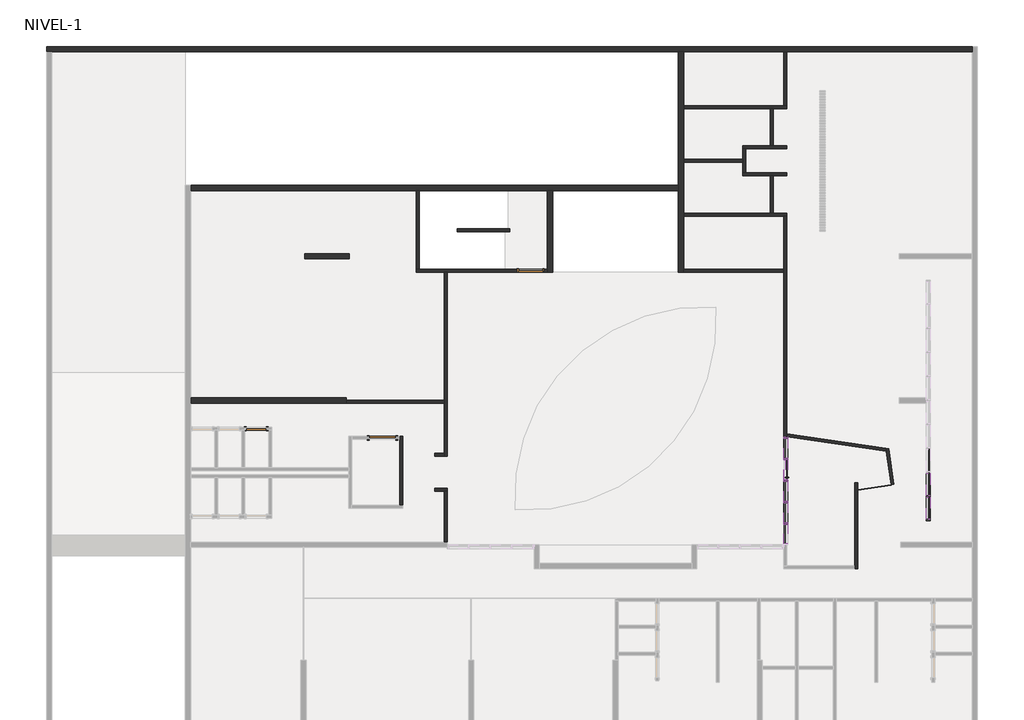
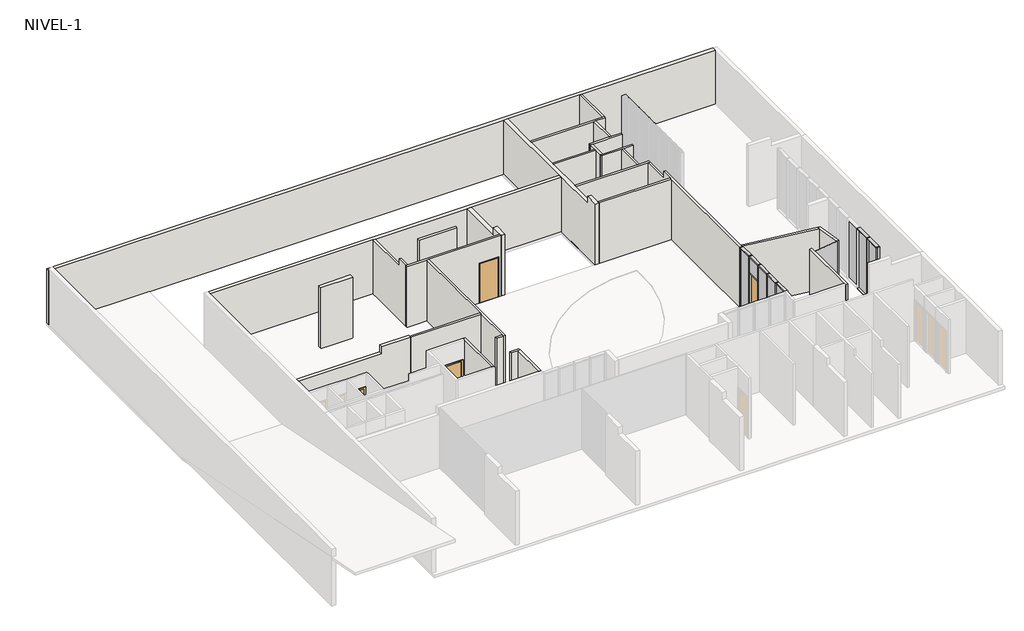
# One storey, part 3 of 4: 29 walls, 27 members, 9 plates, 4 doors.
"""IFC4 building model written with IfcOpenShell, lengths in millimetres."""

from ifc_helpers import new_model, si_unit, frame, origin, place, context, project, spatial, polyline, outline, extrude, faceted_brep, transform, mapped, element, save
from components import door_90f4172a, m_door_curtain_wall_single_glass_m_door_curtain_wall_single_9e41ad53, m_single_flush_1000x_225_34d59a64, m_single_flush_750x_225_ddc8b89c, rectangular_mullion_50_x_150mm_ddcdbc05, rectangular_mullion_50_x_150mm_77bbb7d4, rectangular_mullion_50_x_150mm_a8c66e35, rectangular_mullion_50_x_150mm_7327b6b9, rectangular_mullion_50_x_150mm_a303c6b4, rectangular_mullion_50_x_150mm_548d5156, rectangular_mullion_50_x_150mm_c6357429, rectangular_mullion_50_x_150mm_8dc60d6a, rectangular_mullion_50_x_150mm_86a57cfb, rectangular_mullion_50_x_150mm_24ac0887, rectangular_mullion_50_x_150mm_324a6438, system_panel_cr_shower_02e1cb46, system_panel_glazed_d7af4334, system_panel_glazed_4ab61fab, system_panel_glazed_52054b90, system_panel_glazed_17ea2be8, system_panel_glazed_1ee91bb5

model = new_model("IFC4")

# Units and contexts
model_context = context("Model", 3, world=origin())
ifc_project = project(units=[si_unit("LENGTHUNIT", "METRE", prefix="MILLI")], contexts=[model_context])

# Site, building, storey
site = spatial("IfcSite", under=ifc_project)
building = spatial("IfcBuilding", under=site)
storey = spatial("IfcBuildingStorey", under=building, Name="NIVEL-1", Elevation=-4500.0)

# Doors
placement = place(None, origin())
door_shape = door_90f4172a(model_context)
element("IfcDoor", 1, ObjectType="PUERTA SEGURIDAD SIMPLE : P600_A(90*220) RF120", at=placement, inside=storey, context=model_context, shape_type="MappedRepresentation", body=[
    mapped(door_shape, transform((-10358.5934748, 9988.9139241, -4500.0), x_axis=(-1.0, 0.0, 0.0), y_axis=(0.0, -1.0, 0.0), z_axis=(0.0, 0.0, 1.0))),
])
m_door_curtain_wall_single_glass_m_door_curtain_wall_single_shape = m_door_curtain_wall_single_glass_m_door_curtain_wall_single_9e41ad53(model_context)
element("IfcDoor", 2, ObjectType="M_Door-Curtain-Wall-Single-Glass : M_Door-Curtain-Wall-Single-Glass", at=placement, inside=storey, context=model_context, shape_type="MappedRepresentation", body=[
    mapped(m_door_curtain_wall_single_glass_m_door_curtain_wall_single_shape, transform((-808.5934748, 2541.4139241, -4520.0), x_axis=(0.0, 1.0, 0.0), y_axis=(-1.0, 0.0, 0.0), z_axis=(0.0, 0.0, 1.0))),
])
m_single_flush_1000x_225_shape = m_single_flush_1000x_225_34d59a64(model_context)
element("IfcDoor", 3, ObjectType="M_Single-Flush : 1000x 225", at=placement, inside=storey, context=model_context, shape_type="MappedRepresentation", body=[
    mapped(m_single_flush_1000x_225_shape, transform((-15903.5934748, 3733.9139241, -4500.0), x_axis=(-1.0, 0.0, 0.0), y_axis=(0.0, -1.0, 0.0), z_axis=(0.0, 0.0, 1.0))),
])
m_single_flush_750x_225_shape = m_single_flush_750x_225_ddc8b89c(model_context)
element("IfcDoor", 4, ObjectType="M_Single-Flush : 750x 225", at=placement, inside=storey, context=model_context, shape_type="MappedRepresentation", body=[
    mapped(m_single_flush_750x_225_shape, transform((-20639.3934748, 4078.9139241, -4500.0), x_axis=(-1.0, 0.0, 0.0), y_axis=(0.0, -1.0, 0.0), z_axis=(0.0, 0.0, 1.0))),
])

# Members
rectangular_mullion_50_x_150mm_shape = rectangular_mullion_50_x_150mm_ddcdbc05(model_context)
element("IfcMember", 5, ObjectType="Rectangular Mullion : 50 x 150mm", at=placement, inside=storey, context=model_context, shape_type="MappedRepresentation", body=[
    mapped(rectangular_mullion_50_x_150mm_shape, transform((-808.5934748, 503.9139241, -1170.0), x_axis=(0.0, 0.0, 1.0), y_axis=(1.0, 0.0, 0.0), z_axis=(0.0, 1.0, 0.0))),
])
rectangular_mullion_50_x_150mm_2_shape = rectangular_mullion_50_x_150mm_77bbb7d4(model_context)
element("IfcMember", 6, ObjectType="Rectangular Mullion : 50 x 150mm", at=placement, inside=storey, context=model_context, shape_type="MappedRepresentation", body=[
    mapped(rectangular_mullion_50_x_150mm_2_shape, transform((-808.5934748, 1308.9139241, -1170.0), x_axis=(0.0, 0.0, 1.0), y_axis=(1.0, 0.0, 0.0), z_axis=(0.0, 1.0, 0.0))),
])
element("IfcMember", 7, ObjectType="Rectangular Mullion : 50 x 150mm", at=placement, inside=storey, context=model_context, shape_type="MappedRepresentation", body=[
    mapped(rectangular_mullion_50_x_150mm_2_shape, transform((-808.5934748, 2113.9139241, -1170.0), x_axis=(0.0, 0.0, 1.0), y_axis=(1.0, 0.0, 0.0), z_axis=(0.0, 1.0, 0.0))),
])
element("IfcMember", 8, ObjectType="Rectangular Mullion : 50 x 150mm", at=placement, inside=storey, context=model_context, shape_type="MappedRepresentation", body=[
    mapped(rectangular_mullion_50_x_150mm_2_shape, transform((-808.5934748, 2918.9139241, -1170.0), x_axis=(0.0, 0.0, 1.0), y_axis=(1.0, 0.0, 0.0), z_axis=(0.0, 1.0, 0.0))),
])
element("IfcMember", 9, ObjectType="Rectangular Mullion : 50 x 150mm", at=placement, inside=storey, context=model_context, shape_type="MappedRepresentation", body=[
    mapped(rectangular_mullion_50_x_150mm_2_shape, transform((-808.5934748, 3723.9139241, -1170.0), x_axis=(0.0, 0.0, 1.0), y_axis=(1.0, 0.0, 0.0), z_axis=(0.0, 1.0, 0.0))),
])
element("IfcMember", 10, ObjectType="Rectangular Mullion : 50 x 150mm", at=placement, inside=storey, context=model_context, shape_type="MappedRepresentation", body=[
    mapped(rectangular_mullion_50_x_150mm_2_shape, transform((-808.5934748, 553.9139241, -4520.0), x_axis=(0.0, 0.0, -1.0), y_axis=(1.0, 0.0, 0.0), z_axis=(0.0, -1.0, 0.0))),
])
element("IfcMember", 11, ObjectType="Rectangular Mullion : 50 x 150mm", at=placement, inside=storey, context=model_context, shape_type="MappedRepresentation", body=[
    mapped(rectangular_mullion_50_x_150mm_2_shape, transform((-808.5934748, 1358.9139241, -4520.0), x_axis=(0.0, 0.0, -1.0), y_axis=(1.0, 0.0, 0.0), z_axis=(0.0, -1.0, 0.0))),
])
element("IfcMember", 12, ObjectType="Rectangular Mullion : 50 x 150mm", at=placement, inside=storey, context=model_context, shape_type="MappedRepresentation", body=[
    mapped(rectangular_mullion_50_x_150mm_2_shape, transform((-808.5934748, 2968.9139241, -4520.0), x_axis=(0.0, 0.0, -1.0), y_axis=(1.0, 0.0, 0.0), z_axis=(0.0, -1.0, 0.0))),
])
rectangular_mullion_50_x_150mm_3_shape = rectangular_mullion_50_x_150mm_a8c66e35(model_context)
element("IfcMember", 13, ObjectType="Rectangular Mullion : 50 x 150mm", at=placement, inside=storey, context=model_context, shape_type="MappedRepresentation", body=[
    mapped(rectangular_mullion_50_x_150mm_3_shape, transform((-808.5934748, 2918.9139241, -2075.0), x_axis=(0.0, 0.0, 1.0), y_axis=(1.0, 0.0, 0.0), z_axis=(0.0, 1.0, 0.0))),
])
rectangular_mullion_50_x_150mm_4_shape = rectangular_mullion_50_x_150mm_7327b6b9(model_context)
element("IfcMember", 14, ObjectType="Rectangular Mullion : 50 x 150mm", at=placement, inside=storey, context=model_context, shape_type="MappedRepresentation", body=[
    mapped(rectangular_mullion_50_x_150mm_4_shape, transform((-808.5934748, 528.9139241, -4520.0), x_axis=(0.0, 1.0, 0.0), y_axis=(1.0, 0.0, 0.0), z_axis=(0.0, 0.0, -1.0))),
])
element("IfcMember", 15, ObjectType="Rectangular Mullion : 50 x 150mm", at=placement, inside=storey, context=model_context, shape_type="MappedRepresentation", body=[
    mapped(rectangular_mullion_50_x_150mm_4_shape, transform((-808.5934748, 1333.9139241, -4520.0), x_axis=(0.0, 1.0, 0.0), y_axis=(1.0, 0.0, 0.0), z_axis=(0.0, 0.0, -1.0))),
])
element("IfcMember", 16, ObjectType="Rectangular Mullion : 50 x 150mm", at=placement, inside=storey, context=model_context, shape_type="MappedRepresentation", body=[
    mapped(rectangular_mullion_50_x_150mm_4_shape, transform((-808.5934748, 3748.9139241, -4520.0), x_axis=(0.0, 1.0, 0.0), y_axis=(1.0, 0.0, 0.0), z_axis=(0.0, 0.0, -1.0))),
])
element("IfcMember", 17, ObjectType="Rectangular Mullion : 50 x 150mm", at=placement, inside=storey, context=model_context, shape_type="MappedRepresentation", body=[
    mapped(rectangular_mullion_50_x_150mm_4_shape, transform((-808.5934748, 2138.9139241, -4520.0), x_axis=(0.0, 1.0, 0.0), y_axis=(1.0, 0.0, 0.0), z_axis=(0.0, 0.0, -1.0))),
])
element("IfcMember", 18, ObjectType="Rectangular Mullion : 50 x 150mm", at=placement, inside=storey, context=model_context, shape_type="MappedRepresentation", body=[
    mapped(rectangular_mullion_50_x_150mm_4_shape, transform((-808.5934748, 2943.9139241, -4520.0), x_axis=(0.0, 1.0, 0.0), y_axis=(1.0, 0.0, 0.0), z_axis=(0.0, 0.0, -1.0))),
])
rectangular_mullion_50_x_150mm_5_shape = rectangular_mullion_50_x_150mm_a303c6b4(model_context)
element("IfcMember", 19, ObjectType="Rectangular Mullion : 50 x 150mm", at=placement, inside=storey, context=model_context, shape_type="MappedRepresentation", body=[
    mapped(rectangular_mullion_50_x_150mm_5_shape, transform((-808.5934748, 528.9139241, -2075.0), x_axis=(0.0, 1.0, 0.0), y_axis=(1.0, 0.0, 0.0), z_axis=(0.0, 0.0, -1.0))),
])
element("IfcMember", 20, ObjectType="Rectangular Mullion : 50 x 150mm", at=placement, inside=storey, context=model_context, shape_type="MappedRepresentation", body=[
    mapped(rectangular_mullion_50_x_150mm_5_shape, transform((-808.5934748, 1333.9139241, -2075.0), x_axis=(0.0, 1.0, 0.0), y_axis=(1.0, 0.0, 0.0), z_axis=(0.0, 0.0, -1.0))),
])
element("IfcMember", 21, ObjectType="Rectangular Mullion : 50 x 150mm", at=placement, inside=storey, context=model_context, shape_type="MappedRepresentation", body=[
    mapped(rectangular_mullion_50_x_150mm_5_shape, transform((-808.5934748, 3748.9139241, -2075.0), x_axis=(0.0, 1.0, 0.0), y_axis=(1.0, 0.0, 0.0), z_axis=(0.0, 0.0, -1.0))),
])
element("IfcMember", 22, ObjectType="Rectangular Mullion : 50 x 150mm", at=placement, inside=storey, context=model_context, shape_type="MappedRepresentation", body=[
    mapped(rectangular_mullion_50_x_150mm_5_shape, transform((-808.5934748, 2138.9139241, -2075.0), x_axis=(0.0, 1.0, 0.0), y_axis=(1.0, 0.0, 0.0), z_axis=(0.0, 0.0, -1.0))),
])
element("IfcMember", 23, ObjectType="Rectangular Mullion : 50 x 150mm", at=placement, inside=storey, context=model_context, shape_type="MappedRepresentation", body=[
    mapped(rectangular_mullion_50_x_150mm_5_shape, transform((-808.5934748, 2943.9139241, -2075.0), x_axis=(0.0, 1.0, 0.0), y_axis=(1.0, 0.0, 0.0), z_axis=(0.0, 0.0, -1.0))),
])
rectangular_mullion_50_x_150mm_6_shape = rectangular_mullion_50_x_150mm_548d5156(model_context)
element("IfcMember", 24, ObjectType="Rectangular Mullion : 50 x 150mm", at=placement, inside=storey, context=model_context, shape_type="MappedRepresentation", body=[
    mapped(rectangular_mullion_50_x_150mm_6_shape, transform((-808.5934748, 3773.9139237, -4520.0), x_axis=(0.0, 1.0, 0.0), y_axis=(1.0, 0.0, 0.0), z_axis=(0.0, 0.0, -1.0))),
])
rectangular_mullion_50_x_150mm_7_shape = rectangular_mullion_50_x_150mm_c6357429(model_context)
element("IfcMember", 25, ObjectType="Rectangular Mullion : 50 x 150mm", at=placement, inside=storey, context=model_context, shape_type="MappedRepresentation", body=[
    mapped(rectangular_mullion_50_x_150mm_7_shape, transform((-808.5934748, 3773.9139237, -2075.0), x_axis=(0.0, 1.0, 0.0), y_axis=(1.0, 0.0, 0.0), z_axis=(0.0, 0.0, -1.0))),
])
rectangular_mullion_50_x_150mm_8_shape = rectangular_mullion_50_x_150mm_8dc60d6a(model_context)
element("IfcMember", 26, ObjectType="Rectangular Mullion : 50 x 150mm", at=placement, inside=storey, context=model_context, shape_type="MappedRepresentation", body=[
    mapped(rectangular_mullion_50_x_150mm_8_shape, transform((4516.4065252, 1508.9139241, -1170.0), x_axis=(0.0, 0.0, 1.0), y_axis=(1.0, 0.0, 0.0), z_axis=(0.0, 1.0, 0.0))),
])
element("IfcMember", 27, ObjectType="Rectangular Mullion : 50 x 150mm", at=placement, inside=storey, context=model_context, shape_type="MappedRepresentation", body=[
    mapped(rectangular_mullion_50_x_150mm_8_shape, transform((4516.4065252, 683.9139237, -4520.0), x_axis=(0.0, 0.0, -1.0), y_axis=(1.0, 0.0, 0.0), z_axis=(0.0, -1.0, 0.0))),
])
rectangular_mullion_50_x_150mm_9_shape = rectangular_mullion_50_x_150mm_86a57cfb(model_context)
element("IfcMember", 28, ObjectType="Rectangular Mullion : 50 x 150mm", at=placement, inside=storey, context=model_context, shape_type="MappedRepresentation", body=[
    mapped(rectangular_mullion_50_x_150mm_9_shape, transform((4516.4065252, 1533.9139241, -4520.0), x_axis=(0.0, 1.0, 0.0), y_axis=(1.0, 0.0, 0.0), z_axis=(0.0, 0.0, -1.0))),
])
rectangular_mullion_50_x_150mm_10_shape = rectangular_mullion_50_x_150mm_24ac0887(model_context)
element("IfcMember", 29, ObjectType="Rectangular Mullion : 50 x 150mm", at=placement, inside=storey, context=model_context, shape_type="MappedRepresentation", body=[
    mapped(rectangular_mullion_50_x_150mm_10_shape, transform((4516.4065252, 633.9139237, -1170.0), x_axis=(0.0, -1.0, 0.0), y_axis=(1.0, 0.0, 0.0), z_axis=(0.0, 0.0, 1.0))),
])
rectangular_mullion_50_x_150mm_11_shape = rectangular_mullion_50_x_150mm_324a6438(model_context)
element("IfcMember", 30, ObjectType="Rectangular Mullion : 50 x 150mm", at=placement, inside=storey, context=model_context, shape_type="MappedRepresentation", body=[
    mapped(rectangular_mullion_50_x_150mm_11_shape, transform((4516.4065252, 2408.9139241, -1170.0), x_axis=(0.0, 0.0, 1.0), y_axis=(1.0, 0.0, 0.0), z_axis=(0.0, 1.0, 0.0))),
])
element("IfcMember", 31, ObjectType="Rectangular Mullion : 50 x 150mm", at=placement, inside=storey, context=model_context, shape_type="MappedRepresentation", body=[
    mapped(rectangular_mullion_50_x_150mm_11_shape, transform((4516.4065252, 1558.9139241, -4520.0), x_axis=(0.0, 0.0, -1.0), y_axis=(1.0, 0.0, 0.0), z_axis=(0.0, -1.0, 0.0))),
])

# Plates
system_panel_cr_shower_shape = system_panel_cr_shower_02e1cb46(model_context)
element("IfcPlate", 32, ObjectType="System Panel : CR-SHOWER", at=placement, inside=storey, context=model_context, shape_type="MappedRepresentation", body=[
    mapped(system_panel_cr_shower_shape, transform((2506.2996153, 1885.3092559, -4520.0), x_axis=(-0.9893090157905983, -0.14583439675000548, 0.0), y_axis=(0.14583439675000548, -0.9893090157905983, 0.0), z_axis=(0.0, 0.0, 1.0))),
])
system_panel_glazed_shape = system_panel_glazed_d7af4334(model_context)
element("IfcPlate", 33, ObjectType="System Panel : Glazed", at=placement, inside=storey, context=model_context, shape_type="MappedRepresentation", body=[
    mapped(system_panel_glazed_shape, transform((-808.5934748, 138.9139239, -4470.0), x_axis=(0.0, 1.0, 0.0), y_axis=(-1.0, 0.0, 0.0), z_axis=(0.0, 0.0, 1.0))),
])
system_panel_glazed_2_shape = system_panel_glazed_4ab61fab(model_context)
element("IfcPlate", 34, ObjectType="System Panel : Glazed", at=placement, inside=storey, context=model_context, shape_type="MappedRepresentation", body=[
    mapped(system_panel_glazed_2_shape, transform((-808.5934748, 931.4139241, -4470.0), x_axis=(0.0, 1.0, 0.0), y_axis=(-1.0, 0.0, 0.0), z_axis=(0.0, 0.0, 1.0))),
])
element("IfcPlate", 35, ObjectType="System Panel : Glazed", at=placement, inside=storey, context=model_context, shape_type="MappedRepresentation", body=[
    mapped(system_panel_glazed_2_shape, transform((-808.5934748, 1736.4139241, -4470.0), x_axis=(0.0, 1.0, 0.0), y_axis=(-1.0, 0.0, 0.0), z_axis=(0.0, 0.0, 1.0))),
])
element("IfcPlate", 36, ObjectType="System Panel : Glazed", at=placement, inside=storey, context=model_context, shape_type="MappedRepresentation", body=[
    mapped(system_panel_glazed_2_shape, transform((-808.5934748, 3346.4139241, -4470.0), x_axis=(0.0, 1.0, 0.0), y_axis=(-1.0, 0.0, 0.0), z_axis=(0.0, 0.0, 1.0))),
])
system_panel_glazed_3_shape = system_panel_glazed_52054b90(model_context)
element("IfcPlate", 37, ObjectType="System Panel : Glazed", at=placement, inside=storey, context=model_context, shape_type="MappedRepresentation", body=[
    mapped(system_panel_glazed_3_shape, transform((-808.5934748, 2541.4139241, -2050.0), x_axis=(0.0, 1.0, 0.0), y_axis=(-1.0, 0.0, 0.0), z_axis=(0.0, 0.0, 1.0))),
])
system_panel_glazed_4_shape = system_panel_glazed_17ea2be8(model_context)
element("IfcPlate", 38, ObjectType="System Panel : Glazed", at=placement, inside=storey, context=model_context, shape_type="MappedRepresentation", body=[
    mapped(system_panel_glazed_4_shape, transform((4516.4065252, 1096.4139239, -4470.0), x_axis=(0.0, 1.0, 0.0), y_axis=(-1.0, 0.0, 0.0), z_axis=(0.0, 0.0, 1.0))),
])
system_panel_glazed_5_shape = system_panel_glazed_1ee91bb5(model_context)
element("IfcPlate", 39, ObjectType="System Panel : Glazed", at=placement, inside=storey, context=model_context, shape_type="MappedRepresentation", body=[
    mapped(system_panel_glazed_5_shape, transform((4516.4065252, 1983.9139241, -4470.0), x_axis=(0.0, 1.0, 0.0), y_axis=(-1.0, 0.0, 0.0), z_axis=(0.0, 0.0, 1.0))),
])
element("IfcPlate", 40, ObjectType="System Panel : Glazed", at=placement, inside=storey, context=model_context, shape_type="MappedRepresentation", body=[
    mapped(system_panel_glazed_5_shape, transform((4516.4065252, 2883.9139241, -4470.0), x_axis=(0.0, 1.0, 0.0), y_axis=(-1.0, 0.0, 0.0), z_axis=(0.0, 0.0, 1.0))),
])

# Walls
element("IfcWall", 41, ObjectType="SCV.TI.A.110.120.141.44.1", at=placement, inside=storey, context=model_context, shape_type="Brep", body=[
    faceted_brep([(-14634.3934748, 9933.9139241, -4520.0), (-13593.5934748, 9933.9139241, -4520.0), (-13483.5934748, 9933.9139241, -4520.0), (-9733.5934748, 9933.9139241, -4520.0), (-9733.5934748, 9933.9139241, -1170.0), (-13483.5934748, 9933.9139241, -1170.0), (-13593.5934748, 9933.9139241, -1170.0), (-14634.3934748, 9933.9139241, -1170.0), (-10873.5934748, 9933.9139241, -4500.0), (-10873.5934748, 9933.9139241, -2300.0), (-9843.5934748, 9933.9139241, -2300.0), (-9843.5934748, 9933.9139241, -4500.0), (-14634.3934748, 10043.9139241, -4520.0), (-14634.3934748, 10043.9139241, -1170.0), (-14524.3934748, 10043.9139241, -1170.0), (-9733.5934748, 10043.9139241, -1170.0), (-9733.5934748, 10043.9139241, -4520.0), (-14524.3934748, 10043.9139241, -4520.0), (-10873.5934748, 10043.9139241, -4500.0), (-9843.5934748, 10043.9139241, -4500.0), (-9843.5934748, 10043.9139241, -2300.0), (-10873.5934748, 10043.9139241, -2300.0)], [[[0, 1, 2, 3, 4, 5, 6, 7], [8, 9, 10, 11]], [[12, 13, 14, 15, 16, 17], [18, 19, 20, 21]], [[3, 2, 1, 0, 12, 17, 16]], [[7, 6, 5, 4, 15, 14, 13]], [[4, 3, 16, 15]], [[0, 7, 13, 12]], [[9, 8, 18, 21]], [[10, 9, 21, 20]], [[11, 10, 20, 19]], [[8, 11, 19, 18]]]),
])
element("IfcWall", 42, ObjectType="SCV.TI.A.110.090.143.47.1", at=placement, inside=storey, context=model_context, shape_type="Brep", body=[
    faceted_brep([(1881.4065252, -1166.0860759, -4520.0), (1881.4065252, 1737.599183, -4520.0), (1881.4065252, 1848.7878998, -4520.0), (1881.4065252, 2058.9139241, -4520.0), (1881.4065252, 2058.9139241, -1170.0), (1881.4065252, 1848.7878998, -1170.0), (1881.4065252, 1737.599183, -1170.0), (1881.4065252, -1166.0860759, -1170.0), (1771.4065252, -1166.0860759, -4520.0), (1771.4065252, -1166.0860759, -1170.0), (1771.4065252, -1056.0860759, -1170.0), (1771.4065252, 2058.9139241, -1170.0), (1771.4065252, 2058.9139241, -4520.0), (1771.4065252, -1056.0860759, -4520.0)], [[[0, 1, 2, 3, 4, 5, 6, 7]], [[8, 9, 10, 11, 12, 13]], [[3, 2, 1, 0, 8, 13, 12]], [[4, 3, 12, 11]], [[7, 6, 5, 4, 11, 10, 9]], [[0, 7, 9, 8]]]),
])
element("IfcWall", 43, ObjectType="SCV.TI.A.110.090.143.47.1", at=placement, inside=storey, context=model_context, shape_type="Brep", body=[
    faceted_brep([(3240.0166972, 1993.466754, -4520.0), (3042.5398287, 3333.1071325, -4520.0), (3042.5398287, 3333.1071325, -1170.0), (3240.0166972, 1993.466754, -1170.0), (3131.1927055, 1977.4249704, -4520.0), (3131.1927055, 1977.4249704, -1170.0), (2945.650837, 3236.1008891, -1170.0), (2928.9024898, 3349.718055, -1170.0), (2928.9024898, 3349.718055, -4520.0), (2945.650837, 3236.1008891, -4520.0)], [[[0, 1, 2, 3]], [[4, 5, 6, 7, 8, 9]], [[1, 0, 4, 9, 8]], [[3, 2, 7, 6, 5]], [[0, 3, 5, 4]], [[2, 1, 8, 7]]]),
])
element("IfcWall", 44, ObjectType="SCV.TI.A.110.090.143.47.1", at=placement, inside=storey, context=model_context, shape_type="SweptSolid", body=[
    extrude(outline(polyline([(2945.650837, 3236.1008891), (-773.5934748, 3779.7609183), (-773.5934748, 3890.9298969), (2928.9024898, 3349.718055), (2945.650837, 3236.1008891)])), frame((0.0, 0.0, -4520.0), z_axis=(0.0, 0.0, 1.0), x_axis=(1.0, 0.0, 0.0)), (0.0, 0.0, 1.0), 3350.0),
])
element("IfcWall", 45, ObjectType="SCV.TI.A.110.090.143.47.1", at=placement, inside=storey, context=model_context, shape_type="Brep", body=[
    faceted_brep([(-883.5934748, 12031.8139241, -4520.0), (-883.5934748, 10043.9139241, -4520.0), (-883.5934748, 9933.9139241, -4520.0), (-883.5934748, 3773.9139237, -4520.0), (-883.5934748, 3773.9139237, -1170.0), (-883.5934748, 9933.9139241, -1170.0), (-883.5934748, 10043.9139241, -1170.0), (-883.5934748, 10633.9139241, -1170.0), (-883.5934748, 10633.9139241, -1550.0), (-883.5934748, 12031.8139241, -1550.0), (-773.5934748, 12031.8139241, -4520.0), (-773.5934748, 12031.8139241, -1550.0), (-773.5934748, 10633.9139241, -1550.0), (-773.5934748, 10633.9139241, -1170.0), (-773.5934748, 3890.9298969, -1170.0), (-773.5934748, 3779.7609183, -1170.0), (-773.5934748, 3773.9139237, -1170.0), (-773.5934748, 3773.9139237, -4520.0), (-773.5934748, 3779.7609183, -4520.0), (-773.5934748, 3890.9298969, -4520.0)], [[[0, 1, 2, 3, 4, 5, 6, 7, 8, 9]], [[10, 11, 12, 13, 14, 15, 16, 17, 18, 19]], [[3, 2, 1, 0, 10, 19, 18, 17]], [[4, 3, 17, 16]], [[0, 9, 11, 10]], [[7, 6, 5, 4, 16, 15, 14, 13]], [[7, 13, 12, 8]], [[9, 8, 12, 11]]]),
])
element("IfcWall", 46, ObjectType="SCV.TI.A.110.090.143.47.1", at=placement, inside=storey, context=model_context, shape_type="SweptSolid", body=[
    extrude(outline(polyline([(-883.5934748, 9933.9139241), (-4633.5934748, 9933.9139241), (-4633.5934748, 10043.9139241), (-883.5934748, 10043.9139241), (-883.5934748, 9933.9139241)])), frame((0.0, 0.0, -4520.0), z_axis=(0.0, 0.0, 1.0), x_axis=(1.0, 0.0, 0.0)), (0.0, 0.0, 1.0), 3350.0),
])
element("IfcWall", 47, ObjectType="SCV.TI.A.110.090.143.47.1", at=placement, inside=storey, context=model_context, shape_type="Brep", body=[
    faceted_brep([(-773.5934748, 12141.8139241, -4520.0), (-1273.5934748, 12141.8139241, -4520.0), (-1383.5934748, 12141.8139241, -4520.0), (-4633.5934748, 12141.8139241, -4520.0), (-4633.5934748, 12141.8139241, -1550.0), (-1383.5934748, 12141.8139241, -1550.0), (-1273.5934748, 12141.8139241, -1550.0), (-773.5934748, 12141.8139241, -1550.0), (-773.5934748, 12031.8139241, -4520.0), (-773.5934748, 12031.8139241, -1550.0), (-883.5934748, 12031.8139241, -1550.0), (-4633.5934748, 12031.8139241, -1550.0), (-4633.5934748, 12031.8139241, -4520.0), (-883.5934748, 12031.8139241, -4520.0)], [[[0, 1, 2, 3, 4, 5, 6, 7]], [[8, 9, 10, 11, 12, 13]], [[3, 2, 1, 0, 8, 13, 12]], [[4, 3, 12, 11]], [[0, 7, 9, 8]], [[7, 6, 5, 4, 11, 10, 9]]]),
])
element("IfcWall", 48, ObjectType="SCV.TI.A.110.090.143.47.1", at=placement, inside=storey, context=model_context, shape_type="Brep", body=[
    faceted_brep([(-773.5934748, 13651.8139241, -4520.0), (-2308.5934748, 13651.8139241, -4520.0), (-2418.5934748, 13651.8139241, -4520.0), (-2418.5934748, 13651.8139241, -1550.0), (-2308.5934748, 13651.8139241, -1550.0), (-773.5934748, 13651.8139241, -1550.0), (-773.5934748, 13541.8139241, -4520.0), (-773.5934748, 13541.8139241, -1550.0), (-1273.5934748, 13541.8139241, -1550.0), (-1383.5934748, 13541.8139241, -1550.0), (-2418.5934748, 13541.8139241, -1550.0), (-2418.5934748, 13541.8139241, -4520.0), (-1383.5934748, 13541.8139241, -4520.0), (-1273.5934748, 13541.8139241, -4520.0)], [[[0, 1, 2, 3, 4, 5]], [[6, 7, 8, 9, 10, 11, 12, 13]], [[2, 1, 0, 6, 13, 12, 11]], [[0, 5, 7, 6]], [[3, 2, 11, 10]], [[5, 4, 3, 10, 9, 8, 7]]]),
])
element("IfcWall", 49, ObjectType="SCV.TI.A.110.090.143.47.1", at=placement, inside=storey, context=model_context, shape_type="SweptSolid", body=[
    extrude(outline(polyline([(-1383.5934748, 12141.8139241), (-1383.5934748, 13541.8139241), (-1273.5934748, 13541.8139241), (-1273.5934748, 12141.8139241), (-1383.5934748, 12141.8139241)])), frame((0.0, 0.0, -4520.0), z_axis=(0.0, 0.0, 1.0), x_axis=(1.0, 0.0, 0.0)), (0.0, 0.0, 1.0), 2970.0),
])
element("IfcWall", 50, ObjectType="SCV.TI.A.110.090.143.47.1", at=placement, inside=storey, context=model_context, shape_type="Brep", body=[
    faceted_brep([(-2418.5934748, 14551.8139241, -4520.0), (-2418.5934748, 14169.3639241, -4520.0), (-2418.5934748, 14059.3639241, -4520.0), (-2418.5934748, 13651.8139241, -4520.0), (-2418.5934748, 13651.8139241, -1550.0), (-2418.5934748, 14059.3639241, -1550.0), (-2418.5934748, 14169.3639241, -1550.0), (-2418.5934748, 14551.8139241, -1550.0), (-2308.5934748, 14551.8139241, -4520.0), (-2308.5934748, 14551.8139241, -1550.0), (-2308.5934748, 13651.8139241, -1550.0), (-2308.5934748, 13651.8139241, -4520.0)], [[[0, 1, 2, 3, 4, 5, 6, 7]], [[8, 9, 10, 11]], [[3, 2, 1, 0, 8, 11]], [[0, 7, 9, 8]], [[4, 3, 11, 10]], [[7, 6, 5, 4, 10, 9]]]),
])
element("IfcWall", 51, ObjectType="SCV.TI.A.110.090.143.47.1", at=placement, inside=storey, context=model_context, shape_type="SweptSolid", body=[
    extrude(outline(polyline([(-2418.5934748, 14059.3639241), (-4633.5934748, 14059.3639241), (-4633.5934748, 14169.3639241), (-2418.5934748, 14169.3639241), (-2418.5934748, 14059.3639241)])), frame((0.0, 0.0, -4520.0), z_axis=(0.0, 0.0, 1.0), x_axis=(1.0, 0.0, 0.0)), (0.0, 0.0, 1.0), 2970.0),
])
element("IfcWall", 52, ObjectType="SCV.TI.A.110.090.143.47.1", at=placement, inside=storey, context=model_context, shape_type="Brep", body=[
    faceted_brep([(-773.5934748, 14661.8139241, -4520.0), (-1273.5934748, 14661.8139241, -4520.0), (-1383.5934748, 14661.8139241, -4520.0), (-2418.5934748, 14661.8139241, -4520.0), (-2418.5934748, 14661.8139241, -1550.0), (-1383.5934748, 14661.8139241, -1550.0), (-1273.5934748, 14661.8139241, -1550.0), (-773.5934748, 14661.8139241, -1550.0), (-773.5934748, 14551.8139241, -4520.0), (-773.5934748, 14551.8139241, -1550.0), (-2308.5934748, 14551.8139241, -1550.0), (-2418.5934748, 14551.8139241, -1550.0), (-2418.5934748, 14551.8139241, -4520.0), (-2308.5934748, 14551.8139241, -4520.0)], [[[0, 1, 2, 3, 4, 5, 6, 7]], [[8, 9, 10, 11, 12, 13]], [[3, 2, 1, 0, 8, 13, 12]], [[0, 7, 9, 8]], [[4, 3, 12, 11]], [[7, 6, 5, 4, 11, 10, 9]]]),
])
element("IfcWall", 53, ObjectType="SCV.TI.A.110.090.143.47.1", at=placement, inside=storey, context=model_context, shape_type="Brep", body=[
    faceted_brep([(-773.5934748, 16171.8139241, -4520.0), (-883.5934748, 16171.8139241, -4520.0), (-4633.5934748, 16171.8139241, -4520.0), (-4633.5934748, 16171.8139241, -1550.0), (-883.5934748, 16171.8139241, -1550.0), (-773.5934748, 16171.8139241, -1550.0), (-773.5934748, 16061.8139241, -4520.0), (-773.5934748, 16061.8139241, -1550.0), (-1273.5934748, 16061.8139241, -1550.0), (-1383.5934748, 16061.8139241, -1550.0), (-4633.5934748, 16061.8139241, -1550.0), (-4633.5934748, 16061.8139241, -4520.0), (-1383.5934748, 16061.8139241, -4520.0), (-1273.5934748, 16061.8139241, -4520.0)], [[[0, 1, 2, 3, 4, 5]], [[6, 7, 8, 9, 10, 11, 12, 13]], [[2, 1, 0, 6, 13, 12, 11]], [[3, 2, 11, 10]], [[0, 5, 7, 6]], [[5, 4, 3, 10, 9, 8, 7]]]),
])
element("IfcWall", 54, ObjectType="SCV.TI.A.110.090.143.47.1", at=placement, inside=storey, context=model_context, shape_type="SweptSolid", body=[
    extrude(outline(polyline([(-1273.5934748, 16061.8139241), (-1273.5934748, 14661.8139241), (-1383.5934748, 14661.8139241), (-1383.5934748, 16061.8139241), (-1273.5934748, 16061.8139241)])), frame((0.0, 0.0, -4520.0), z_axis=(0.0, 0.0, 1.0), x_axis=(1.0, 0.0, 0.0)), (0.0, 0.0, 1.0), 2970.0),
])
element("IfcWall", 55, ObjectType="SCV.TI.A.110.090.143.47.1", at=placement, inside=storey, context=model_context, shape_type="SweptSolid", body=[
    extrude(outline(polyline([(-773.5934748, 18184.7139241), (-773.5934748, 16171.8139241), (-883.5934748, 16171.8139241), (-883.5934748, 18184.7139241), (-773.5934748, 18184.7139241)])), frame((0.0, 0.0, -4520.0), z_axis=(0.0, 0.0, 1.0), x_axis=(1.0, 0.0, 0.0)), (0.0, 0.0, 1.0), 2970.0),
])
element("IfcWall", 56, ObjectType="SCV.TI.A.110.090.143.47.1", at=placement, inside=storey, context=model_context, shape_type="SweptSolid", body=[
    extrude(outline(polyline([(-13593.5934748, 5033.9139241), (-17258.5934748, 5033.9139241), (-17258.5934748, 5143.9139241), (-13593.5934748, 5143.9139241), (-13593.5934748, 5033.9139241)])), frame((0.0, 0.0, -4520.0), z_axis=(0.0, 0.0, 1.0), x_axis=(1.0, 0.0, 0.0)), (0.0, 0.0, 1.0), 3350.0),
])
element("IfcWall", 57, ObjectType="SCV.TI.A.110.090.143.47.1", at=placement, inside=storey, context=model_context, shape_type="SweptSolid", body=[
    extrude(outline(polyline([(-13593.5934748, -166.0860759), (-13593.5934748, 1731.4139241), (-13483.5934748, 1731.4139241), (-13483.5934748, -166.0860759), (-13593.5934748, -166.0860759)])), frame((0.0, 0.0, -4520.0), z_axis=(0.0, 0.0, 1.0), x_axis=(1.0, 0.0, 0.0)), (0.0, 0.0, 1.0), 3350.0),
])
element("IfcWall", 58, ObjectType="SCV.TI.A.110.090.143.47.1", at=placement, inside=storey, context=model_context, shape_type="Brep", body=[
    faceted_brep([(-15253.5934748, 3788.9139241, -4520.0), (-15253.5934748, 3678.9139241, -4520.0), (-15253.5934748, 1203.9139241, -4520.0), (-15253.5934748, 1203.9139241, -1170.0), (-15253.5934748, 3678.9139241, -1170.0), (-15253.5934748, 3788.9139241, -1170.0), (-15143.5934748, 3788.9139241, -4520.0), (-15143.5934748, 3788.9139241, -1170.0), (-15143.5934748, 1203.9139241, -1170.0), (-15143.5934748, 1203.9139241, -4520.0)], [[[0, 1, 2, 3, 4, 5]], [[6, 7, 8, 9]], [[2, 1, 0, 6, 9]], [[5, 4, 3, 8, 7]], [[3, 2, 9, 8]], [[0, 5, 7, 6]]]),
])
element("IfcWall", 59, ObjectType="SCV.TI.A.110.120.141.44.1", at=placement, inside=storey, context=model_context, shape_type="SweptSolid", body=[
    extrude(outline(polyline([(10043.9139241, -4520.0), (10043.9139241, -1170.0), (10633.9139241, -1170.0), (10633.9139241, -1550.0), (12984.7139241, -1550.0), (12984.7139241, -4520.0), (10043.9139241, -4520.0)])), frame((-14634.3934748, 0.0, 0.0), z_axis=(1.0, 0.0, 0.0), x_axis=(0.0, 1.0, 0.0)), (0.0, 0.0, 1.0), 110.0),
])
element("IfcWall", 60, ObjectType="SCV.TI.A.110.090.143.47.1", at=placement, inside=storey, context=model_context, shape_type="Brep", body=[
    faceted_brep([(-13483.5934748, 3041.4139241, -4520.0), (-13483.5934748, 9933.9139241, -4520.0), (-13483.5934748, 9933.9139241, -1170.0), (-13483.5934748, 3041.4139241, -1170.0), (-13593.5934748, 3041.4139241, -4520.0), (-13593.5934748, 3041.4139241, -1170.0), (-13593.5934748, 3151.4139241, -1170.0), (-13593.5934748, 5033.9139241, -1170.0), (-13593.5934748, 5143.9139241, -1170.0), (-13593.5934748, 9933.9139241, -1170.0), (-13593.5934748, 9933.9139241, -4520.0), (-13593.5934748, 5143.9139241, -4520.0), (-13593.5934748, 5033.9139241, -4520.0), (-13593.5934748, 3151.4139241, -4520.0)], [[[0, 1, 2, 3]], [[4, 5, 6, 7, 8, 9, 10, 11, 12, 13]], [[1, 0, 4, 13, 12, 11, 10]], [[3, 2, 9, 8, 7, 6, 5]], [[2, 1, 10, 9]], [[0, 3, 5, 4]]]),
])
element("IfcWall", 61, ObjectType="SCV.TI.A.110.090.143.47.1", at=placement, inside=storey, context=model_context, shape_type="SweptSolid", body=[
    extrude(outline(polyline([(-13943.5934748, 3151.4139241), (-13593.5934748, 3151.4139241), (-13593.5934748, 3041.4139241), (-13943.5934748, 3041.4139241), (-13943.5934748, 3151.4139241)])), frame((0.0, 0.0, -4520.0), z_axis=(0.0, 0.0, 1.0), x_axis=(1.0, 0.0, 0.0)), (0.0, 0.0, 1.0), 3350.0),
])
element("IfcWall", 62, ObjectType="SCV.TI.A.110.090.143.47.1", at=placement, inside=storey, context=model_context, shape_type="Brep", body=[
    faceted_brep([(-13483.5934748, 1841.4139241, -4520.0), (-13943.5934748, 1841.4139241, -4520.0), (-13943.5934748, 1841.4139241, -1170.0), (-13483.5934748, 1841.4139241, -1170.0), (-13483.5934748, 1731.4139241, -4520.0), (-13483.5934748, 1731.4139241, -1170.0), (-13593.5934748, 1731.4139241, -1170.0), (-13943.5934748, 1731.4139241, -1170.0), (-13943.5934748, 1731.4139241, -4520.0), (-13593.5934748, 1731.4139241, -4520.0)], [[[0, 1, 2, 3]], [[4, 5, 6, 7, 8, 9]], [[1, 0, 4, 9, 8]], [[2, 1, 8, 7]], [[3, 2, 7, 6, 5]], [[0, 3, 5, 4]]]),
])
element("IfcWall", 63, ObjectType="SCV.TI.A.110.090.143.47.1", at=placement, inside=storey, context=model_context, shape_type="SweptSolid", body=[
    extrude(outline(polyline([(-11148.9934748, 11459.3139241), (-13108.9934748, 11459.3139241), (-13108.9934748, 11569.3139241), (-11148.9934748, 11569.3139241), (-11148.9934748, 11459.3139241)])), frame((0.0, 0.0, -4520.0), z_axis=(0.0, 0.0, 1.0), x_axis=(1.0, 0.0, 0.0)), (0.0, 0.0, 1.0), 3350.0),
])
element("IfcWall", 64, ObjectType="HA-200mm", at=placement, inside=storey, context=model_context, shape_type="Brep", body=[
    faceted_brep([(6166.4065252, 18384.7139241, -4520.0), (-28484.3934748, 18384.7139241, -4520.0), (-28484.3934748, 18384.7139241, -1550.0), (6166.4065252, 18384.7139241, -1550.0), (6166.4065252, 18184.7139241, -4520.0), (6166.4065252, 18184.7139241, -1550.0), (-773.5934748, 18184.7139241, -1550.0), (-883.5934748, 18184.7139241, -1550.0), (-4633.5934748, 18184.7139241, -1550.0), (-4833.5934748, 18184.7139241, -1550.0), (-28484.3934748, 18184.7139241, -1550.0), (-28484.3934748, 18184.7139241, -4520.0), (-28284.3934748, 18184.7139241, -4520.0), (-4833.5934748, 18184.7139241, -4520.0), (-4633.5934748, 18184.7139241, -4520.0), (-883.5934748, 18184.7139241, -4520.0), (-773.5934748, 18184.7139241, -4520.0)], [[[0, 1, 2, 3]], [[4, 5, 6, 7, 8, 9, 10, 11, 12, 13, 14, 15, 16]], [[1, 0, 4, 16, 15, 14, 13, 12, 11]], [[0, 3, 5, 4]], [[3, 2, 10, 9, 8, 7, 6, 5]], [[2, 1, 11, 10]]]),
])
element("IfcWall", 65, ObjectType="HA-200mm", at=placement, inside=storey, context=model_context, shape_type="Brep", body=[
    faceted_brep([(-23084.3934748, 12984.7139241, -4520.0), (-14634.3934748, 12984.7139241, -4520.0), (-14524.3934748, 12984.7139241, -4520.0), (-9733.5934748, 12984.7139241, -4520.0), (-9533.5934748, 12984.7139241, -4520.0), (-4833.5934748, 12984.7139241, -4520.0), (-4833.5934748, 12984.7139241, -1550.0), (-9533.5934748, 12984.7139241, -1550.0), (-9733.5934748, 12984.7139241, -1550.0), (-14524.3934748, 12984.7139241, -1550.0), (-14634.3934748, 12984.7139241, -1550.0), (-23084.3934748, 12984.7139241, -1550.0), (-23084.3934748, 13184.7139241, -4520.0), (-23084.3934748, 13184.7139241, -1550.0), (-4833.5934748, 13184.7139241, -1550.0), (-4833.5934748, 13184.7139241, -4520.0)], [[[0, 1, 2, 3, 4, 5, 6, 7, 8, 9, 10, 11]], [[12, 13, 14, 15]], [[5, 4, 3, 2, 1, 0, 12, 15]], [[0, 11, 13, 12]], [[6, 5, 15, 14]], [[11, 10, 9, 8, 7, 6, 14, 13]]]),
])
element("IfcWall", 66, ObjectType="HA-200mm", at=placement, inside=storey, context=model_context, shape_type="Brep", body=[
    faceted_brep([(-4633.5934748, 9933.9139241, -4520.0), (-4633.5934748, 10043.9139241, -4520.0), (-4633.5934748, 12031.8139241, -4520.0), (-4633.5934748, 12141.8139241, -4520.0), (-4633.5934748, 14059.3639241, -4520.0), (-4633.5934748, 14169.3639241, -4520.0), (-4633.5934748, 16061.8139241, -4520.0), (-4633.5934748, 16171.8139241, -4520.0), (-4633.5934748, 18184.7139241, -4520.0), (-4633.5934748, 18184.7139241, -1550.0), (-4633.5934748, 16171.8139241, -1550.0), (-4633.5934748, 16061.8139241, -1550.0), (-4633.5934748, 14169.3639241, -1550.0), (-4633.5934748, 14059.3639241, -1550.0), (-4633.5934748, 12141.8139241, -1550.0), (-4633.5934748, 12031.8139241, -1550.0), (-4633.5934748, 10633.9139241, -1550.0), (-4633.5934748, 10633.9139241, -1170.0), (-4633.5934748, 10043.9139241, -1170.0), (-4633.5934748, 9933.9139241, -1170.0), (-4833.5934748, 9933.9139241, -4520.0), (-4833.5934748, 9933.9139241, -1170.0), (-4833.5934748, 10633.9139241, -1170.0), (-4833.5934748, 10633.9139241, -1550.0), (-4833.5934748, 12984.7139241, -1550.0), (-4833.5934748, 13184.7139241, -1550.0), (-4833.5934748, 18184.7139241, -1550.0), (-4833.5934748, 18184.7139241, -4520.0), (-4833.5934748, 13184.7139241, -4520.0), (-4833.5934748, 12984.7139241, -4520.0)], [[[0, 1, 2, 3, 4, 5, 6, 7, 8, 9, 10, 11, 12, 13, 14, 15, 16, 17, 18, 19]], [[20, 21, 22, 23, 24, 25, 26, 27, 28, 29]], [[8, 7, 6, 5, 4, 3, 2, 1, 0, 20, 29, 28, 27]], [[9, 8, 27, 26]], [[19, 18, 17, 22, 21]], [[22, 17, 16, 23]], [[16, 15, 14, 13, 12, 11, 10, 9, 26, 25, 24, 23]], [[0, 19, 21, 20]]]),
])
element("IfcWall", 67, ObjectType="HA-200mm", at=placement, inside=storey, context=model_context, shape_type="Brep", body=[
    faceted_brep([(-9533.5934748, 9933.9139241, -4520.0), (-9533.5934748, 12984.7139241, -4520.0), (-9533.5934748, 12984.7139241, -1550.0), (-9533.5934748, 10633.9139241, -1550.0), (-9533.5934748, 10633.9139241, -1170.0), (-9533.5934748, 9933.9139241, -1170.0), (-9733.5934748, 9933.9139241, -4520.0), (-9733.5934748, 9933.9139241, -1170.0), (-9733.5934748, 10043.9139241, -1170.0), (-9733.5934748, 10633.9139241, -1170.0), (-9733.5934748, 10633.9139241, -1550.0), (-9733.5934748, 12984.7139241, -1550.0), (-9733.5934748, 12984.7139241, -4520.0), (-9733.5934748, 10043.9139241, -4520.0)], [[[0, 1, 2, 3, 4, 5]], [[6, 7, 8, 9, 10, 11, 12, 13]], [[1, 0, 6, 13, 12]], [[2, 1, 12, 11]], [[5, 4, 9, 8, 7]], [[9, 4, 3, 10]], [[3, 2, 11, 10]], [[0, 5, 7, 6]]]),
])
element("IfcWall", 68, ObjectType="HA-200mm", at=placement, inside=storey, context=model_context, shape_type="Brep", body=[
    faceted_brep([(-23084.3934748, 5033.9139241, -4520.0), (-17258.5934748, 5033.9139241, -4520.0), (-17258.5934748, 5033.9139241, -1170.0), (-18758.5934748, 5033.9139241, -1170.0), (-18758.5934748, 5033.9139241, -1550.0), (-23084.3934748, 5033.9139241, -1550.0), (-23084.3934748, 5233.9139241, -4520.0), (-23084.3934748, 5233.9139241, -1550.0), (-18758.5934748, 5233.9139241, -1550.0), (-18758.5934748, 5233.9139241, -1170.0), (-17258.5934748, 5233.9139241, -1170.0), (-17258.5934748, 5233.9139241, -4520.0), (-17258.5934748, 5143.9139241, -4520.0), (-17258.5934748, 5143.9139241, -1170.0)], [[[0, 1, 2, 3, 4, 5]], [[6, 7, 8, 9, 10, 11]], [[1, 0, 6, 11, 12]], [[2, 1, 12, 11, 10, 13]], [[0, 5, 7, 6]], [[3, 2, 13, 10, 9]], [[3, 9, 8, 4]], [[5, 4, 8, 7]]]),
])
element("IfcWall", 69, ObjectType="HA-200mm", at=placement, inside=storey, context=model_context, shape_type="SweptSolid", body=[
    extrude(outline(polyline([(-17158.5934745, 10433.9139241), (-18808.5934748, 10433.9139241), (-18808.5934748, 10633.9139241), (-17158.5934745, 10633.9139241), (-17158.5934745, 10433.9139241)])), frame((0.0, 0.0, -4520.0), z_axis=(0.0, 0.0, 1.0), x_axis=(1.0, 0.0, 0.0)), (0.0, 0.0, 1.0), 3350.0),
])

save(model, "model.ifc")
